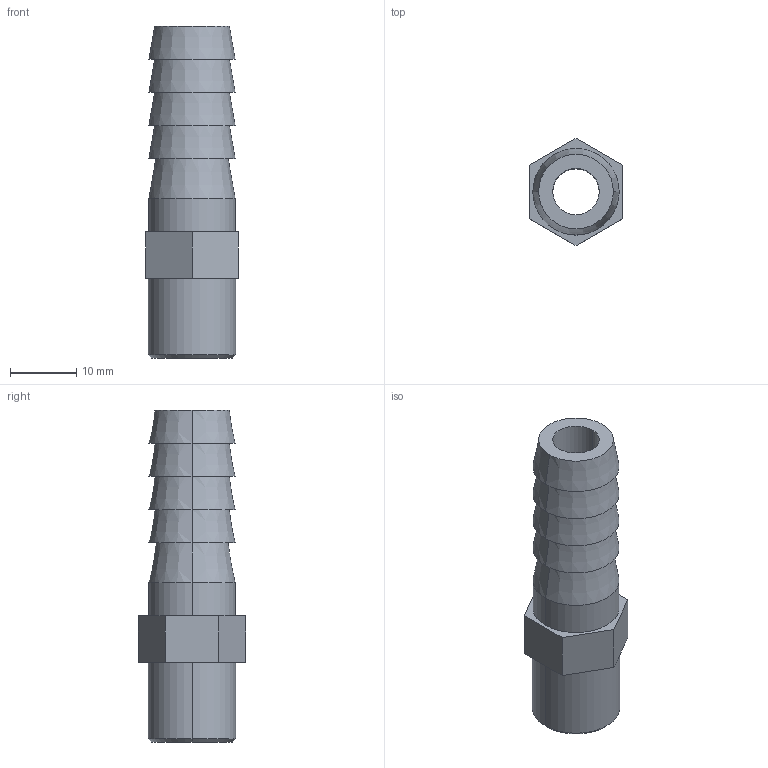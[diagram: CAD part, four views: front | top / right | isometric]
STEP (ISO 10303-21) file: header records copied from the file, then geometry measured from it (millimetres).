
FILE_DESCRIPTION (( 'STEP AP214' ), '1' );
FILE_NAME ('BruyRubio_BR87_1_4_GAS.STEP', '2019-12-17T11:04:22', ( '' ), ( '' ), 'SwSTEP 2.0', 'SolidWorks 2017', '' );
FILE_SCHEMA (( 'AUTOMOTIVE_DESIGN' ));
Length unit declared in the file: millimetre
Products named in the file (1): BruyRubio_BR87_1_4_GAS
Bounding box: 14 x 16.17 x 50 mm (x, y, z)
Volume: 4539 mm3; surface area: 3497.9 mm2
Topology: 1 solids, 1 shells, 32 faces, 68 edges, 44 vertices
Faces by surface type: plane 14, cone 12, cylinder 6
Entity records: 1262 total; most frequent: DIRECTION 166, CARTESIAN_POINT 145, ORIENTED_EDGE 136, EDGE_CURVE 68, AXIS2_PLACEMENT_3D 65, VERTEX_POINT 44, EDGE_LOOP 40, LINE 36
